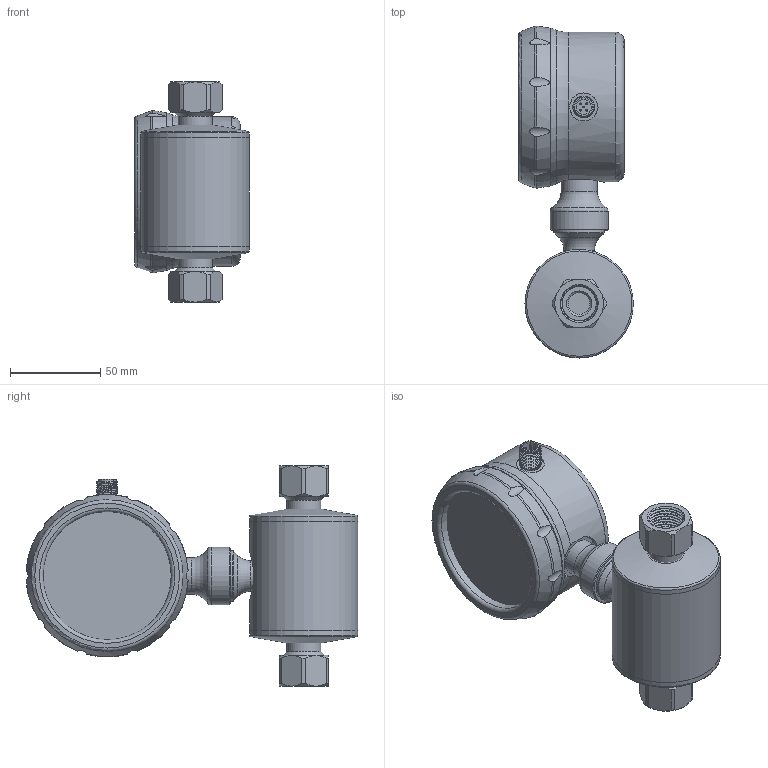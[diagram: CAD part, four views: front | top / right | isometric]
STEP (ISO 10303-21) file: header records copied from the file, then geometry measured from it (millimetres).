
FILE_DESCRIPTION( (''), '2;1');
FILE_NAME( 'QMKD_DN8_H25.4_female-thread.step', '2024-08-30T09:01:19+08:00', (''), (''), '', '', '');
FILE_SCHEMA (('AUTOMOTIVE_DESIGN { 1 0 10303 214 3 1 1 1 }'));
Length unit declared in the file: millimetre
Products named in the file (1): QMKD DN8_H25.4_female-thread
Bounding box: 63.5 x 183.81 x 122 mm (x, y, z)
Volume: 573661.6 mm3; surface area: 98076.5 mm2
Topology: 11 solids, 11 shells, 257 faces, 603 edges, 380 vertices
Faces by surface type: cylinder 92, plane 59, cone 50, torus 20, sphere 20, bspline 16
Full cylindrical faces by diameter (mm): 11.6 x2, 12 x2, 15 x2, 15.5 x1, 17 x1, 18 x2, 19 x2, 20 x1, 26 x1, 28 x1, 32 x1, 54 x2, 60 x3, 71 x1, 80 x2, 83 x1
Entity records: 11734 total; most frequent: CARTESIAN_POINT 6447, DIRECTION 1043, ORIENTED_EDGE 1006, EDGE_CURVE 503, AXIS2_PLACEMENT_3D 483, VERTEX_POINT 352, EDGE_LOOP 341, ADVANCED_FACE 254
